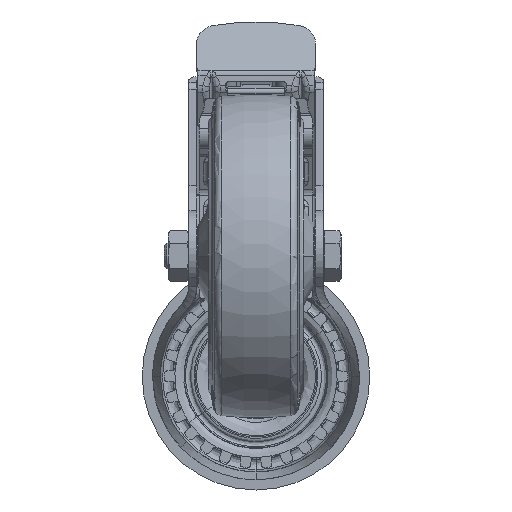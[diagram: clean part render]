
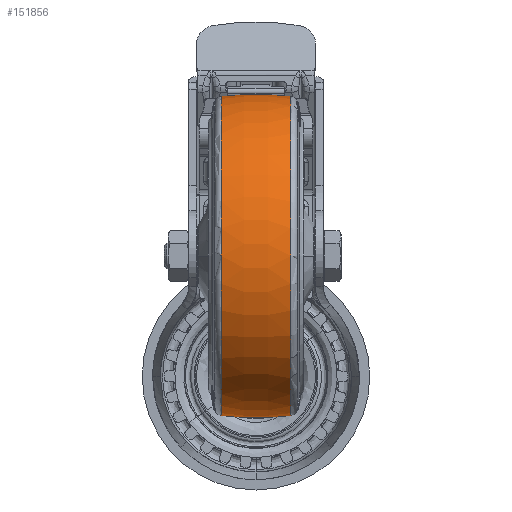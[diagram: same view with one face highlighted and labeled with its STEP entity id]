
A CAD part, front view. The second image highlights one B-rep face of the part: STEP entity #151856.
In plain terms, the highlighted toroidal (fillet/blend) face has major radius 57.5 mm and minor radius 120 mm.
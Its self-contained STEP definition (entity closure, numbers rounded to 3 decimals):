
#4039 = TOROIDAL_SURFACE ( 'NONE', #70388, -57.5, 120. ) ;
#5193 = CIRCLE ( 'NONE', #58996, 120. ) ;
#6645 = AXIS2_PLACEMENT_3D ( 'NONE', #177696, #25464, #141974 ) ;
#12477 = DIRECTION ( 'NONE',  ( 0., 1., 0. ) ) ;
#16870 = CARTESIAN_POINT ( 'NONE',  ( 13.435, 61.746, 0. ) ) ;
#20587 = CIRCLE ( 'NONE', #189463, 61.746 ) ;
#20663 = ORIENTED_EDGE ( 'NONE', *, *, #126655, .T. ) ;
#24480 = EDGE_CURVE ( 'NONE', #43812, #132430, #141321, .T. ) ;
#25464 = DIRECTION ( 'NONE',  ( 1., 0., 0. ) ) ;
#28216 = CARTESIAN_POINT ( 'NONE',  ( 13.435, -61.746, 0. ) ) ;
#30183 = CARTESIAN_POINT ( 'NONE',  ( 0., 57.5, 0. ) ) ;
#43744 = DIRECTION ( 'NONE',  ( 1., 0., 0. ) ) ;
#43812 = VERTEX_POINT ( 'NONE', #28216 ) ;
#50211 = DIRECTION ( 'NONE',  ( 0.112, 0.994, 0. ) ) ;
#50407 = EDGE_CURVE ( 'NONE', #184588, #132430, #20587, .T. ) ;
#51266 = AXIS2_PLACEMENT_3D ( 'NONE', #30183, #62134, #111297 ) ;
#56501 = CIRCLE ( 'NONE', #6645, 61.746 ) ;
#58201 = VERTEX_POINT ( 'NONE', #16870 ) ;
#58996 = AXIS2_PLACEMENT_3D ( 'NONE', #147589, #193819, #50211 ) ;
#62134 = DIRECTION ( 'NONE',  ( 0., 0., -1. ) ) ;
#70388 = AXIS2_PLACEMENT_3D ( 'NONE', #151127, #43744, #12477 ) ;
#101287 = ORIENTED_EDGE ( 'NONE', *, *, #24480, .F. ) ;
#101745 = DIRECTION ( 'NONE',  ( 1., 0., 0. ) ) ;
#111297 = DIRECTION ( 'NONE',  ( 0.112, -0.994, 0. ) ) ;
#118164 = DIRECTION ( 'NONE',  ( 0., 1., 0. ) ) ;
#120262 = CARTESIAN_POINT ( 'NONE',  ( -13.435, -61.746, 0. ) ) ;
#126655 = EDGE_CURVE ( 'NONE', #58201, #184588, #5193, .T. ) ;
#132430 = VERTEX_POINT ( 'NONE', #120262 ) ;
#133798 = FACE_OUTER_BOUND ( 'NONE', #138417, .T. ) ;
#138417 = EDGE_LOOP ( 'NONE', ( #164392, #101287, #178673, #20663 ) ) ;
#141321 = CIRCLE ( 'NONE', #51266, 120. ) ;
#141974 = DIRECTION ( 'NONE',  ( 0., 1., 0. ) ) ;
#144490 = EDGE_CURVE ( 'NONE', #58201, #43812, #56501, .T. ) ;
#147589 = CARTESIAN_POINT ( 'NONE',  ( 0., -57.5, 0. ) ) ;
#151127 = CARTESIAN_POINT ( 'NONE',  ( 0., 0., 0. ) ) ;
#151856 = ADVANCED_FACE ( 'NONE', ( #133798 ), #4039, .T. ) ;
#153580 = CARTESIAN_POINT ( 'NONE',  ( -13.435, 0., 0. ) ) ;
#164392 = ORIENTED_EDGE ( 'NONE', *, *, #50407, .T. ) ;
#170630 = CARTESIAN_POINT ( 'NONE',  ( -13.435, 61.746, 0. ) ) ;
#177696 = CARTESIAN_POINT ( 'NONE',  ( 13.435, 0., 0. ) ) ;
#178673 = ORIENTED_EDGE ( 'NONE', *, *, #144490, .F. ) ;
#184588 = VERTEX_POINT ( 'NONE', #170630 ) ;
#189463 = AXIS2_PLACEMENT_3D ( 'NONE', #153580, #101745, #118164 ) ;
#193819 = DIRECTION ( 'NONE',  ( 0., 0., 1. ) ) ;
